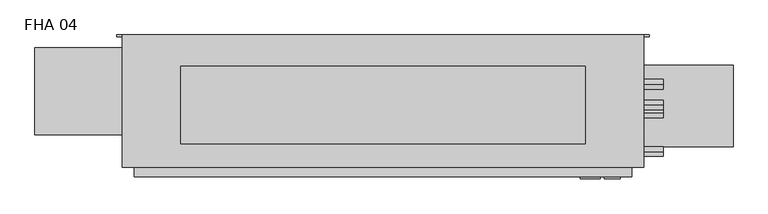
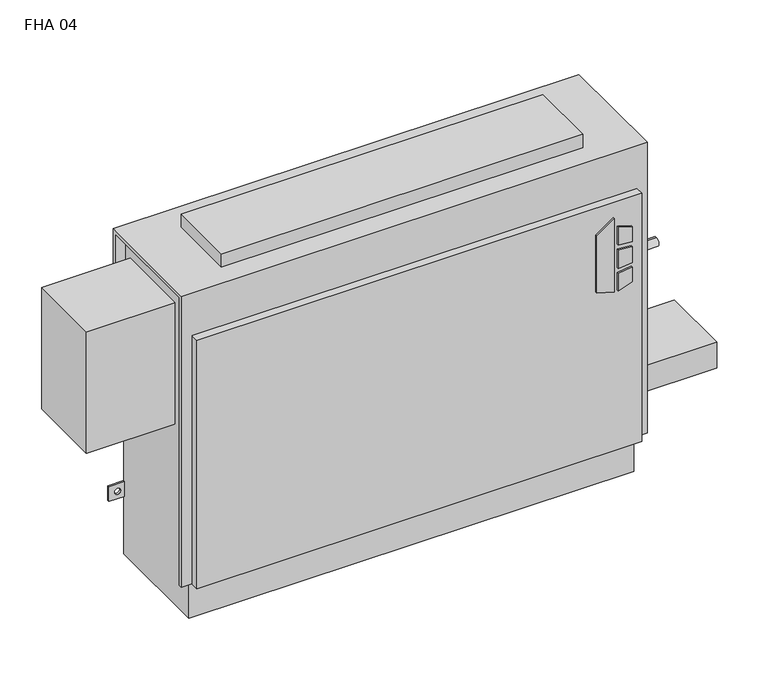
"""IFC4 building model written with IfcOpenShell, lengths in millimetres: proxy geometry, Vertical_Fan_Coil_Unit_-_FHA_-_IEC_-_4-Pipe_TS-FR_RH_2022 : FHA 04."""

import ifcopenshell
import ifcopenshell.guid

model = None  # the IFC model being written
_history = None  # IfcOwnerHistory: only IFC2X3 demands one
_inside = {}  # id of a spatial element -> (the spatial element, [elements in it])
_under = {}  # id of a project, library or spatial element -> (it, [spatial elements below it])
_declared = {}  # id of a project -> (the project, [libraries it declares])
_typed = {}  # id of a type object -> (the type object, [elements of that type])
_made_of = {}  # id of a material, layer set ... -> (it, [elements and type objects made of it])


def new_model(schema):
    """Start an empty IFC model of exactly this schema.

    Asked for "IFC4X3", IfcOpenShell would pick the latest addendum, in which some entities
    have other attributes; the version numbers below select the first issue.
    IFC2X3 requires an IfcOwnerHistory on every rooted entity: one is made here for all.
    """
    global model, _history
    if schema == "IFC4X3":
        model = ifcopenshell.file(schema_version=(4, 3, 0, 0))
    else:
        model = ifcopenshell.file(schema=schema)
    _inside.clear()
    _under.clear()
    _declared.clear()
    _typed.clear()
    _made_of.clear()
    _history = None
    if model.schema == "IFC2X3":
        org = make("IfcOrganization", Name="unknown")
        user = make(
            "IfcPersonAndOrganization",
            ThePerson=make("IfcPerson", FamilyName="unknown"),
            TheOrganization=org,
        )
        app = make(
            "IfcApplication",
            ApplicationDeveloper=org,
            Version="unknown",
            ApplicationFullName="unknown",
            ApplicationIdentifier="unknown",
        )
        _history = make(
            "IfcOwnerHistory",
            OwningUser=user,
            OwningApplication=app,
            ChangeAction="ADDED",
            CreationDate=0,
        )
    return model


def make(cls, **values):
    """One entity of the class cls with the attributes given. An attribute that is None is left unset."""
    return model.create_entity(
        cls, **{name: value for name, value in values.items() if value is not None}
    )


def rooted(cls, **values):
    """An entity with a GlobalId (a new one), such as an element, a storey or a relation."""
    return make(cls, GlobalId=ifcopenshell.guid.new(), OwnerHistory=_history, **values)


def si_unit(unit_type, name, prefix=None):
    """IfcSIUnit, for example si_unit("LENGTHUNIT", "METRE", prefix="MILLI")."""
    return make("IfcSIUnit", UnitType=unit_type, Prefix=prefix, Name=name)


def assignment(units):
    """IfcUnitAssignment: the units of a project."""
    return None if units is None else make("IfcUnitAssignment", Units=units)


def point(xyz):
    """IfcCartesianPoint."""
    return None if xyz is None else make("IfcCartesianPoint", Coordinates=xyz)


def direction(xyz):
    """IfcDirection."""
    return None if xyz is None else make("IfcDirection", DirectionRatios=xyz)


def frame(location, z_axis=None, x_axis=None):
    """IfcAxis2Placement3D, a coordinate frame: its origin and axes. An axis left out is left unset."""
    return make(
        "IfcAxis2Placement3D",
        Location=point(location),
        Axis=direction(z_axis),
        RefDirection=direction(x_axis),
    )


def frame_2d(location, x_axis=None):
    """IfcAxis2Placement2D, a coordinate frame in the plane: its origin and x axis."""
    return make(
        "IfcAxis2Placement2D", Location=point(location), RefDirection=direction(x_axis)
    )


def origin():
    """The frame at (0, 0, 0) with its axes left unset."""
    return frame((0.0, 0.0, 0.0))


def place(relative_to, where):
    """IfcLocalPlacement: puts the frame where relative to a parent placement (None: the world)."""
    return make(
        "IfcLocalPlacement", PlacementRelTo=relative_to, RelativePlacement=where
    )


def context(
    kind, dimensions, precision=None, world=None, true_north=None, identifier=None
):
    """IfcGeometricRepresentationContext, for example the 3D "Model" context."""
    return make(
        "IfcGeometricRepresentationContext",
        ContextIdentifier=identifier,
        ContextType=kind,
        CoordinateSpaceDimension=dimensions,
        Precision=precision,
        WorldCoordinateSystem=world,
        TrueNorth=true_north,
    )


def project(units=None, contexts=None):
    """IfcProject with its units and contexts."""
    return rooted(
        "IfcProject",
        Name="project",
        RepresentationContexts=contexts,
        UnitsInContext=assignment(units),
    )


def spatial(cls, under=None, at=None, **own):
    """A site, building, storey or space (cls), placed at a placement, below another one or the project."""
    s = rooted(cls, ObjectPlacement=at, **own)
    if under is not None:
        _under.setdefault(under.id(), (under, []))[1].append(s)
    return s


def polyline(points):
    """IfcPolyline through the points."""
    return make("IfcPolyline", Points=[point(p) for p in points])


def circle_curve(where, radius):
    """IfcCircle in the frame where."""
    return make("IfcCircle", Position=where, Radius=radius)


def trimmed(basis, trim1, trim2, sense, master):
    """IfcTrimmedCurve: the piece of a basis curve between two trims."""
    return make(
        "IfcTrimmedCurve",
        BasisCurve=basis,
        Trim1=trim1,
        Trim2=trim2,
        SenseAgreement=sense,
        MasterRepresentation=master,
    )


def segment(curve, same_sense, transition):
    """IfcCompositeCurveSegment."""
    return make(
        "IfcCompositeCurveSegment",
        Transition=transition,
        SameSense=same_sense,
        ParentCurve=curve,
    )


def composite_curve(segments, self_intersect=None):
    """IfcCompositeCurve: segments joined end to end."""
    return make("IfcCompositeCurve", Segments=segments, SelfIntersect=self_intersect)


def outline(outer, holes=None, kind="AREA"):
    """IfcArbitraryClosedProfileDef: a profile drawn as a closed curve; with holes, ...WithVoids."""
    if holes is None:
        return make("IfcArbitraryClosedProfileDef", ProfileType=kind, OuterCurve=outer)
    return make(
        "IfcArbitraryProfileDefWithVoids",
        ProfileType=kind,
        OuterCurve=outer,
        InnerCurves=holes,
    )


def extrude(swept, where, along, depth):
    """IfcExtrudedAreaSolid: the profile swept, set in the frame where, extruded along a direction by depth."""
    return make(
        "IfcExtrudedAreaSolid",
        SweptArea=swept,
        Position=where,
        ExtrudedDirection=direction(along),
        Depth=depth,
    )


def shape(context_of_items, identifier, shape_type, items):
    """IfcShapeRepresentation: the items that make up one representation, for example the "Body"."""
    return make(
        "IfcShapeRepresentation",
        ContextOfItems=context_of_items,
        RepresentationIdentifier=identifier,
        RepresentationType=shape_type,
        Items=items,
    )


def source(mapping_origin, context_of_items, identifier, shape_type, items):
    """IfcRepresentationMap: a shape defined once, which mapped items show again and again."""
    return make(
        "IfcRepresentationMap",
        MappingOrigin=mapping_origin,
        MappedRepresentation=shape(context_of_items, identifier, shape_type, items),
    )


def transform(
    local_origin,
    x_axis=None,
    y_axis=None,
    z_axis=None,
    scale=None,
    scale2=None,
    scale3=None,
    uniform=True,
):
    """IfcCartesianTransformationOperator3D, or its non-uniform kind. x_axis, y_axis, z_axis: its Axis1, 2, 3."""
    if uniform:
        return make(
            "IfcCartesianTransformationOperator3D",
            Axis1=direction(x_axis),
            Axis2=direction(y_axis),
            LocalOrigin=point(local_origin),
            Scale=scale,
            Axis3=direction(z_axis),
        )
    return make(
        "IfcCartesianTransformationOperator3DnonUniform",
        Axis1=direction(x_axis),
        Axis2=direction(y_axis),
        LocalOrigin=point(local_origin),
        Scale=scale,
        Axis3=direction(z_axis),
        Scale2=scale2,
        Scale3=scale3,
    )


def mapped(mapping_source, mapping_target):
    """IfcMappedItem: shows the shape of a source again, moved by a transform."""
    return make(
        "IfcMappedItem", MappingSource=mapping_source, MappingTarget=mapping_target
    )


def made_of(thing, what):
    """Note that an element or type object is made of a material, layer set ...; save() writes the relation."""
    if what is not None:
        _made_of.setdefault(what.id(), (what, []))[1].append(thing)
    return thing


def element(
    cls,
    number,
    at=None,
    inside=None,
    cuts=None,
    type_object=None,
    material=None,
    context=None,
    identifier="Body",
    shape_type=None,
    held_by="IfcProductDefinitionShape",
    body=None,
    shapes=None,
    **own,
):
    """One element of the class cls, such as IfcWall. Its Tag is "e" and its number.

    at: its placement. inside: the storey or other place that contains it. cuts: it is an
    opening in that element (IfcRelVoidsElement). A single representation is given by context,
    identifier, shape_type and body (its items); several are given by shapes. held_by: the class
    of the entity that holds the representations. save() writes the other relations.
    """
    e = rooted(cls, Tag="e%d" % number, ObjectPlacement=at, **own)
    if body is not None:
        shapes = [shape(context, identifier, shape_type, body)]
    if shapes is not None:
        e.Representation = make(held_by, Representations=shapes)
    if inside is not None:
        _inside.setdefault(inside.id(), (inside, []))[1].append(e)
    if cuts is not None:
        rooted(
            "IfcRelVoidsElement", RelatingBuildingElement=cuts, RelatedOpeningElement=e
        )
    if type_object is not None:
        _typed.setdefault(type_object.id(), (type_object, []))[1].append(e)
    return made_of(e, material)


def aggregate(whole, parts):
    """IfcRelAggregates: a whole, such as a stair, and the parts it consists of."""
    return rooted("IfcRelAggregates", RelatingObject=whole, RelatedObjects=parts)


def save(model, path):
    """Write the relations noted so far, then the file.

    IfcRelAggregates (storeys below a building ...), IfcRelContainedInSpatialStructure (elements
    in a storey), IfcRelDefinesByType, IfcRelAssociatesMaterial and IfcRelDeclares: one each for
    every whole, place, type object, material and project.
    """
    for whole, parts in _under.values():
        aggregate(whole, parts)
    for where, things in _inside.values():
        rooted(
            "IfcRelContainedInSpatialStructure",
            RelatedElements=things,
            RelatingStructure=where,
        )
    for kind, things in _typed.values():
        rooted("IfcRelDefinesByType", RelatedObjects=things, RelatingType=kind)
    for what, things in _made_of.values():
        rooted("IfcRelAssociatesMaterial", RelatedObjects=things, RelatingMaterial=what)
    for by, libraries in _declared.values():
        rooted("IfcRelDeclares", RelatingContext=by, RelatedDefinitions=libraries)
    model.write(path)


def plane_surface(at):
    """IfcPlane: the flat surface through the origin of the frame at, square to its z axis."""
    return make("IfcPlane", Position=at)


def revolved_surface(curve, axis_point, axis_direction):
    """IfcSurfaceOfRevolution: the curve turned about the line through axis_point along axis_direction."""
    return make(
        "IfcSurfaceOfRevolution",
        SweptCurve=make("IfcArbitraryOpenProfileDef", ProfileType="CURVE", Curve=curve),
        AxisPosition=make("IfcAxis1Placement", Location=point(axis_point), Axis=direction(axis_direction)),
    )


def advanced_brep(points, edges, surfaces, faces):
    """IfcAdvancedBrep: a solid bounded by faces that lie on surfaces and meet in shared edges.

    An edge is (start, end): straight between two places in points (the first is 0);
    or (start, end, curve); or (start, end, curve, False) where it runs against its curve.
    A face is (place in surfaces, loops), or (place, loops, False) where it looks against
    its surface's normal. A loop lists edges by number (the first is 1), with a minus sign
    where the edge is run from its end to its start. The first loop is the outer one.
    """
    corners = [point(p) for p in points]
    vertices = [make("IfcVertexPoint", VertexGeometry=c) for c in corners]
    made = []
    for start, end, *more in edges:
        made.append(
            make(
                "IfcEdgeCurve",
                EdgeStart=vertices[start],
                EdgeEnd=vertices[end],
                EdgeGeometry=more[0] if more else make("IfcPolyline", Points=[corners[start], corners[end]]),
                SameSense=more[1] if len(more) > 1 else True,
            )
        )
    hull = []
    for where, loops, *sense in faces:
        bounds = []
        for j, loop in enumerate(loops):
            ring = [make("IfcOrientedEdge", EdgeElement=made[abs(k) - 1], Orientation=k > 0) for k in loop]
            bounds.append(
                make(
                    "IfcFaceOuterBound" if j == 0 else "IfcFaceBound",
                    Bound=make("IfcEdgeLoop", EdgeList=ring),
                    Orientation=True,
                )
            )
        hull.append(make("IfcAdvancedFace", Bounds=bounds, FaceSurface=surfaces[where], SameSense=sense[0] if sense else True))
    return make("IfcAdvancedBrep", Outer=make("IfcClosedShell", CfsFaces=hull))


def fha_04_7ede1e6b(model_context):
    return source(origin(), model_context, "Body", "SolidModel", [
        extrude(outline(polyline([(391.6086829, 474.7368862), (381.6606126, 506.9102728), (523.831537, 506.9102728), (500.8095309, 474.7368862), (391.6086829, 474.7368862)])), frame((0.0, 9.525, 0.0), z_axis=(0.0, 1.0, 0.0), x_axis=(0.0, 0.0, 1.0)), (0.0, 0.0, 1.0), 3.175),
        extrude(outline(polyline([(470.6079683, 513.6686058), (467.4055757, 539.75), (496.6344168, 539.75), (504.6988318, 513.6686058), (470.6079683, 513.6686058)])), frame((0.0, 9.525, 0.0), z_axis=(0.0, 1.0, 0.0), x_axis=(0.0, 0.0, 1.0)), (0.0, 0.0, 1.0), 3.175),
        extrude(outline(polyline([(418.7444414, 539.75), (415.0789404, 513.6686058), (381.6606126, 513.6686058), (390.2948498, 539.75), (418.7444414, 539.75)])), frame((0.0, 9.525, 0.0), z_axis=(0.0, 1.0, 0.0), x_axis=(0.0, 0.0, 1.0)), (0.0, 0.0, 1.0), 3.175),
        extrude(outline(polyline([(458.0596028, 539.75), (460.3414292, 513.6686058), (424.4038806, 513.6686058), (427.1451456, 539.75), (458.0596028, 539.75)])), frame((0.0, 9.525, 0.0), z_axis=(0.0, 1.0, 0.0), x_axis=(0.0, 0.0, 1.0)), (0.0, 0.0, 1.0), 3.175),
        extrude(outline(composite_curve([segment(trimmed(circle_curve(frame_2d((622.3, 128.5875)), 9.525), [point((612.775, 128.5875))], [point((631.825, 128.5875))], False, "CARTESIAN"), True, "CONTINUOUS"), segment(trimmed(circle_curve(frame_2d((622.3, 128.5875)), 9.525), [point((631.825, 128.5875))], [point((612.775, 128.5875))], False, "CARTESIAN"), True, "CONTINUOUS")], self_intersect=False)), frame((0.0, 0.0, 101.6), z_axis=(0.0, 0.0, 1.0), x_axis=(1.0, 0.0, 0.0)), (0.0, 0.0, 1.0), 25.4),
        extrude(outline(polyline([(723.9, 195.2625), (723.9, 61.9125), (558.8, 61.9125), (558.8, 195.2625), (723.9, 195.2625)])), frame((0.0, 0.0, 127.0), z_axis=(0.0, 0.0, 1.0), x_axis=(1.0, 0.0, 0.0)), (0.0, 0.0, 1.0), 50.8),
        extrude(outline(polyline([(482.6, 193.675), (482.6, 66.675), (-177.8, 66.675), (-177.8, 193.675), (482.6, 193.675)])), frame((0.0, 0.0, 635.0), z_axis=(0.0, 0.0, 1.0), x_axis=(1.0, 0.0, 0.0)), (0.0, 0.0, 1.0), 25.4),
        extrude(outline(composite_curve([segment(trimmed(circle_curve(frame_2d((117.475, 472.44)), 7.9375), [point((117.475, 464.5025))], [point((117.475, 480.3775))], False, "CARTESIAN"), True, "CONTINUOUS"), segment(trimmed(circle_curve(frame_2d((117.475, 472.44)), 7.9375), [point((117.475, 480.3775))], [point((117.475, 464.5025))], False, "CARTESIAN"), True, "CONTINUOUS")], self_intersect=False)), frame((558.8, 0.0, 0.0), z_axis=(1.0, 0.0, 0.0), x_axis=(0.0, 1.0, 0.0)), (0.0, 0.0, 1.0), 50.8),
        extrude(outline(composite_curve([segment(trimmed(circle_curve(frame_2d((164.0586, 445.897)), 7.9375), [point((164.0586, 437.9595))], [point((164.0586, 453.8345))], False, "CARTESIAN"), True, "CONTINUOUS"), segment(trimmed(circle_curve(frame_2d((164.0586, 445.897)), 7.9375), [point((164.0586, 453.8345))], [point((164.0586, 437.9595))], False, "CARTESIAN"), True, "CONTINUOUS")], self_intersect=False)), frame((558.8, 0.0, 0.0), z_axis=(1.0, 0.0, 0.0), x_axis=(0.0, 1.0, 0.0)), (0.0, 0.0, 1.0), 50.8),
        extrude(outline(composite_curve([segment(trimmed(circle_curve(frame_2d((130.175, 554.99)), 7.9502), [point((130.175, 547.0398))], [point((130.175, 562.9402))], False, "CARTESIAN"), True, "CONTINUOUS"), segment(trimmed(circle_curve(frame_2d((130.175, 554.99)), 7.9502), [point((130.175, 562.9402))], [point((130.175, 547.0398))], False, "CARTESIAN"), True, "CONTINUOUS")], self_intersect=False)), frame((558.8, 0.0, 0.0), z_axis=(1.0, 0.0, 0.0), x_axis=(0.0, 1.0, 0.0)), (0.0, 0.0, 1.0), 50.8),
        extrude(outline(composite_curve([segment(trimmed(circle_curve(frame_2d((53.975, 416.56)), 7.9502), [point((53.975, 408.6098))], [point((53.975, 424.5102))], False, "CARTESIAN"), True, "CONTINUOUS"), segment(trimmed(circle_curve(frame_2d((53.975, 416.56)), 7.9502), [point((53.975, 424.5102))], [point((53.975, 408.6098))], False, "CARTESIAN"), True, "CONTINUOUS")], self_intersect=False)), frame((558.8, 0.0, 0.0), z_axis=(1.0, 0.0, 0.0), x_axis=(0.0, 1.0, 0.0)), (0.0, 0.0, 1.0), 50.8),
        extrude(outline(polyline([(-415.925, 223.266), (-254.0, 223.266), (-254.0, 81.534), (-415.925, 81.534), (-415.925, 223.266)])), frame((0.0, 0.0, 349.25), z_axis=(0.0, 0.0, 1.0), x_axis=(1.0, 0.0, 0.0)), (0.0, 0.0, 1.0), 234.95),
        advanced_brep(
        [(577.85, 244.475, 635.0), (-273.05, 244.475, 635.0), (-273.05, 28.575, 635.0), (577.85, 28.575, 635.0), (-254.0, 244.475, 0.0), (558.8, 244.475, 0.0), (558.8, 38.1, 0.0), (-254.0, 38.1, 0.0), (577.85, 244.475, 558.8), (558.8, 244.475, 558.8), (558.8, 244.475, 414.3375), (587.375, 244.475, 414.3375), (587.375, 244.475, 385.7625), (558.8, 244.475, 385.7625), (558.8, 244.475, 287.3375), (587.375, 244.475, 287.3375), (587.375, 244.475, 258.7625), (558.8, 244.475, 258.7625), (558.8, 244.475, 141.2875), (587.375, 244.475, 141.2875), (587.375, 244.475, 112.7125), (558.8, 244.475, 112.7125), (-254.0, 244.475, 112.7125), (-282.575, 244.475, 112.7125), (-282.575, 244.475, 141.2875), (-254.0, 244.475, 141.2875), (-254.0, 244.475, 258.7625), (-282.575, 244.475, 258.7625), (-282.575, 244.475, 287.3375), (-254.0, 244.475, 287.3375), (-254.0, 244.475, 385.7625), (-282.575, 244.475, 385.7625), (-282.575, 244.475, 414.3375), (-254.0, 244.475, 414.3375), (-254.0, 244.475, 558.8), (-273.05, 244.475, 558.8), (577.0626, 244.475, 127.0), (565.9374, 244.475, 127.0), (-261.1374, 244.475, 127.0), (-272.2626, 244.475, 127.0), (577.0626, 244.475, 273.05), (565.9374, 244.475, 273.05), (-261.1374, 244.475, 273.05), (-272.2626, 244.475, 273.05), (577.0626, 244.475, 400.05), (565.9374, 244.475, 400.05), (-261.1374, 244.475, 400.05), (-272.2626, 244.475, 400.05), (-273.05, 238.125, 558.8), (-273.05, 238.125, 628.65), (-273.05, 34.925, 628.65), (-273.05, 34.925, 73.025), (-273.05, 28.575, 73.025), (558.8, 12.7, 552.45), (-254.0, 12.7, 552.45), (-254.0, 12.7, 73.025), (558.8, 12.7, 73.025), (577.85, 28.575, 73.025), (577.85, 34.925, 73.025), (577.85, 34.925, 628.65), (577.85, 238.125, 628.65), (577.85, 238.125, 558.8), (-254.0, 28.575, 73.025), (-254.0, 28.575, 552.45), (558.8, 28.575, 552.45), (558.8, 28.575, 73.025), (-254.0, 34.925, 73.025), (-254.0, 38.1, 73.025), (558.8, 38.1, 73.025), (558.8, 34.925, 73.025), (558.8, 241.3, 112.7125), (558.8, 241.3, 141.2875), (558.8, 241.3, 258.7625), (558.8, 241.3, 287.3375), (558.8, 241.3, 385.7625), (558.8, 241.3, 414.3375), (558.8, 238.125, 558.8), (558.8, 238.125, 628.65), (558.8, 34.925, 628.65), (-254.0, 34.925, 628.65), (-254.0, 238.125, 628.65), (-254.0, 238.125, 558.8), (-254.0, 241.3, 414.3375), (-254.0, 241.3, 385.7625), (-254.0, 241.3, 287.3375), (-254.0, 241.3, 258.7625), (-254.0, 241.3, 141.2875), (-254.0, 241.3, 112.7125), (587.375, 241.3, 112.7125), (587.375, 241.3, 141.2875), (565.9374, 241.3, 127.0), (577.0626, 241.3, 127.0), (587.375, 241.3, 258.7625), (587.375, 241.3, 287.3375), (565.9374, 241.3, 273.05), (577.0626, 241.3, 273.05), (587.375, 241.3, 385.7625), (587.375, 241.3, 414.3375), (565.9374, 241.3, 400.05), (577.0626, 241.3, 400.05), (-282.575, 241.3, 141.2875), (-282.575, 241.3, 112.7125), (-272.2626, 241.3, 127.0), (-261.1374, 241.3, 127.0), (-282.575, 241.3, 287.3375), (-282.575, 241.3, 258.7625), (-272.2626, 241.3, 273.05), (-261.1374, 241.3, 273.05), (-282.575, 241.3, 414.3375), (-282.575, 241.3, 385.7625), (-272.2626, 241.3, 400.05), (-261.1374, 241.3, 400.05)],
        [
            (0, 1),
            (1, 2),
            (2, 3),
            (3, 0),
            (4, 5),
            (5, 6),
            (6, 7),
            (7, 4),
            (0, 8),
            (8, 9),
            (9, 10),
            (10, 11),
            (11, 12),
            (12, 13),
            (13, 14),
            (14, 15),
            (15, 16),
            (16, 17),
            (17, 18),
            (18, 19),
            (19, 20),
            (20, 21),
            (21, 5),
            (4, 22),
            (22, 23),
            (23, 24),
            (24, 25),
            (25, 26),
            (26, 27),
            (27, 28),
            (28, 29),
            (29, 30),
            (30, 31),
            (31, 32),
            (32, 33),
            (33, 34),
            (34, 35),
            (35, 1),
            (36, 37, circle_curve(frame((571.5, 244.475, 127.0), z_axis=(0.0, -1.0, 0.0), x_axis=(-1.0, 0.0, 0.0)), 5.5626)),
            (37, 36, circle_curve(frame((571.5, 244.475, 127.0), z_axis=(0.0, -1.0, 0.0), x_axis=(-1.0, 0.0, 0.0)), 5.5626)),
            (38, 39, circle_curve(frame((-266.7, 244.475, 127.0), z_axis=(0.0, -1.0, 0.0), x_axis=(-1.0, 0.0, 0.0)), 5.5626)),
            (39, 38, circle_curve(frame((-266.7, 244.475, 127.0), z_axis=(0.0, -1.0, 0.0), x_axis=(-1.0, 0.0, 0.0)), 5.5626)),
            (40, 41, circle_curve(frame((571.5, 244.475, 273.05), z_axis=(0.0, -1.0, 0.0), x_axis=(-1.0, 0.0, 0.0)), 5.5626)),
            (41, 40, circle_curve(frame((571.5, 244.475, 273.05), z_axis=(0.0, -1.0, 0.0), x_axis=(-1.0, 0.0, 0.0)), 5.5626)),
            (42, 43, circle_curve(frame((-266.7, 244.475, 273.05), z_axis=(0.0, -1.0, 0.0), x_axis=(-1.0, 0.0, 0.0)), 5.5626)),
            (43, 42, circle_curve(frame((-266.7, 244.475, 273.05), z_axis=(0.0, -1.0, 0.0), x_axis=(-1.0, 0.0, 0.0)), 5.5626)),
            (44, 45, circle_curve(frame((571.5, 244.475, 400.05), z_axis=(0.0, -1.0, 0.0), x_axis=(-1.0, 0.0, 0.0)), 5.5626)),
            (45, 44, circle_curve(frame((571.5, 244.475, 400.05), z_axis=(0.0, -1.0, 0.0), x_axis=(-1.0, 0.0, 0.0)), 5.5626)),
            (46, 47, circle_curve(frame((-266.7, 244.475, 400.05), z_axis=(0.0, -1.0, 0.0), x_axis=(-1.0, 0.0, 0.0)), 5.5626)),
            (47, 46, circle_curve(frame((-266.7, 244.475, 400.05), z_axis=(0.0, -1.0, 0.0), x_axis=(-1.0, 0.0, 0.0)), 5.5626)),
            (35, 48),
            (48, 49),
            (49, 50),
            (50, 51),
            (51, 52),
            (52, 2),
            (53, 54),
            (54, 55),
            (55, 56),
            (56, 53),
            (3, 57),
            (57, 58),
            (58, 59),
            (59, 60),
            (60, 61),
            (61, 8),
            (52, 62),
            (62, 63),
            (63, 64),
            (64, 65),
            (65, 57),
            (53, 64),
            (63, 54),
            (55, 62),
            (51, 66),
            (66, 67),
            (67, 68),
            (68, 69),
            (69, 58),
            (65, 56),
            (6, 68),
            (67, 7),
            (21, 70),
            (70, 71),
            (71, 18),
            (17, 72),
            (72, 73),
            (73, 14),
            (13, 74),
            (74, 75),
            (75, 10),
            (9, 76),
            (76, 77),
            (77, 78),
            (78, 69),
            (66, 79),
            (79, 80),
            (80, 81),
            (81, 34),
            (33, 82),
            (82, 83),
            (83, 30),
            (29, 84),
            (84, 85),
            (85, 26),
            (25, 86),
            (86, 87),
            (87, 22),
            (76, 61),
            (60, 77),
            (78, 59),
            (50, 79),
            (81, 48),
            (80, 49),
            (70, 88),
            (88, 89),
            (89, 71),
            (90, 91, circle_curve(frame((571.5, 241.3, 127.0), z_axis=(0.0, 1.0, 0.0), x_axis=(-1.0, 0.0, 0.0)), 5.5626)),
            (91, 90, circle_curve(frame((571.5, 241.3, 127.0), z_axis=(0.0, 1.0, 0.0), x_axis=(-1.0, 0.0, 0.0)), 5.5626)),
            (92, 93),
            (93, 73),
            (72, 92),
            (94, 95, circle_curve(frame((571.5, 241.3, 273.05), z_axis=(0.0, 1.0, 0.0), x_axis=(-1.0, 0.0, 0.0)), 5.5626)),
            (95, 94, circle_curve(frame((571.5, 241.3, 273.05), z_axis=(0.0, 1.0, 0.0), x_axis=(-1.0, 0.0, 0.0)), 5.5626)),
            (96, 97),
            (97, 75),
            (74, 96),
            (98, 99, circle_curve(frame((571.5, 241.3, 400.05), z_axis=(0.0, 1.0, 0.0), x_axis=(-1.0, 0.0, 0.0)), 5.5626)),
            (99, 98, circle_curve(frame((571.5, 241.3, 400.05), z_axis=(0.0, 1.0, 0.0), x_axis=(-1.0, 0.0, 0.0)), 5.5626)),
            (100, 101),
            (101, 87),
            (86, 100),
            (102, 103, circle_curve(frame((-266.7, 241.3, 127.0), z_axis=(0.0, 1.0, 0.0), x_axis=(-1.0, 0.0, 0.0)), 5.5626)),
            (103, 102, circle_curve(frame((-266.7, 241.3, 127.0), z_axis=(0.0, 1.0, 0.0), x_axis=(-1.0, 0.0, 0.0)), 5.5626)),
            (84, 104),
            (104, 105),
            (105, 85),
            (106, 107, circle_curve(frame((-266.7, 241.3, 273.05), z_axis=(0.0, 1.0, 0.0), x_axis=(-1.0, 0.0, 0.0)), 5.5626)),
            (107, 106, circle_curve(frame((-266.7, 241.3, 273.05), z_axis=(0.0, 1.0, 0.0), x_axis=(-1.0, 0.0, 0.0)), 5.5626)),
            (108, 109),
            (109, 83),
            (82, 108),
            (110, 111, circle_curve(frame((-266.7, 241.3, 400.05), z_axis=(0.0, 1.0, 0.0), x_axis=(-1.0, 0.0, 0.0)), 5.5626)),
            (111, 110, circle_curve(frame((-266.7, 241.3, 400.05), z_axis=(0.0, 1.0, 0.0), x_axis=(-1.0, 0.0, 0.0)), 5.5626)),
            (89, 19),
            (88, 20),
            (16, 92),
            (93, 15),
            (12, 96),
            (97, 11),
            (24, 100),
            (101, 23),
            (105, 27),
            (104, 28),
            (32, 108),
            (109, 31),
            (90, 37),
            (36, 91),
            (102, 39),
            (38, 103),
            (94, 41),
            (40, 95),
            (106, 43),
            (42, 107),
            (98, 45),
            (44, 99),
            (110, 47),
            (46, 111),
        ],
        [
            plane_surface(frame((-273.05, 244.475, 635.0), z_axis=(0.0, 0.0, 1.0), x_axis=(-1.0, 0.0, 0.0))),
            plane_surface(frame((-273.05, 244.475, 0.0), z_axis=(0.0, 0.0, -1.0), x_axis=(1.0, 0.0, 0.0))),
            plane_surface(frame((577.85, 244.475, 635.0), z_axis=(0.0, 1.0, 0.0), x_axis=(0.0, 0.0, -1.0))),
            plane_surface(frame((-273.05, 244.475, 635.0), z_axis=(-1.0, 0.0, 0.0), x_axis=(0.0, 0.0, -1.0))),
            plane_surface(frame((-273.05, 12.7, 635.0), z_axis=(0.0, -1.0, 0.0), x_axis=(0.0, 0.0, -1.0))),
            plane_surface(frame((577.85, 12.7, 635.0), z_axis=(1.0, 0.0, 0.0), x_axis=(0.0, 0.0, -1.0))),
            plane_surface(frame((-400.05, 28.575, 635.0), z_axis=(0.0, -1.0, 0.0), x_axis=(1.0, 0.0, 0.0))),
            plane_surface(frame((-400.05, 28.575, 552.45), z_axis=(0.0, 0.0, 1.0), x_axis=(1.0, 0.0, 0.0))),
            plane_surface(frame((-273.05, 12.7, 73.025), z_axis=(0.0, 0.0, -1.0), x_axis=(1.0, 0.0, 0.0))),
            plane_surface(frame((-273.05, 38.1, 73.025), z_axis=(0.0, -1.0, 0.0), x_axis=(1.0, 0.0, 0.0))),
            plane_surface(frame((558.8, 28.575, 73.025), z_axis=(1.0, 0.0, 0.0), x_axis=(0.0, -1.0, 0.0))),
            plane_surface(frame((-254.0, 28.575, 552.45), z_axis=(-1.0, 0.0, 0.0), x_axis=(0.0, -1.0, 0.0))),
            plane_surface(frame((558.8, 244.475, 0.0), z_axis=(1.0, 0.0, 0.0), x_axis=(0.0, -1.0, 0.0))),
            plane_surface(frame((-254.0, 244.475, 73.025), z_axis=(-1.0, 0.0, 0.0), x_axis=(0.0, -1.0, 0.0))),
            plane_surface(frame((558.8, 238.125, 628.65), z_axis=(0.0, -1.0, 0.0), x_axis=(1.0, 0.0, 0.0))),
            plane_surface(frame((558.8, 238.125, 558.8), z_axis=(0.0, 0.0, -1.0), x_axis=(1.0, 0.0, 0.0))),
            plane_surface(frame((558.8, 34.925, 73.025), z_axis=(0.0, 1.0, 0.0), x_axis=(1.0, 0.0, 0.0))),
            plane_surface(frame((558.8, 34.925, 628.65), z_axis=(0.0, 0.0, -1.0), x_axis=(1.0, 0.0, 0.0))),
            plane_surface(frame((-254.0, 34.925, 628.65), z_axis=(0.0, 1.0, 0.0), x_axis=(-1.0, 0.0, 0.0))),
            plane_surface(frame((-254.0, 244.475, 558.8), z_axis=(0.0, 0.0, -1.0), x_axis=(-1.0, 0.0, 0.0))),
            plane_surface(frame((-254.0, 238.125, 558.8), z_axis=(0.0, -1.0, 0.0), x_axis=(-1.0, 0.0, 0.0))),
            plane_surface(frame((-254.0, 238.125, 628.65), z_axis=(0.0, 0.0, -1.0), x_axis=(-1.0, 0.0, 0.0))),
            plane_surface(frame((587.375, 241.3, 141.2875), z_axis=(0.0, -1.0, 0.0), x_axis=(-1.0, 0.0, 0.0))),
            plane_surface(frame((558.8, 244.475, 141.2875), z_axis=(0.0, 0.0, 1.0), x_axis=(0.0, -1.0, 0.0))),
            plane_surface(frame((587.375, 244.475, 141.2875), z_axis=(1.0, 0.0, 0.0), x_axis=(0.0, -1.0, 0.0))),
            plane_surface(frame((587.375, 244.475, 112.7125), z_axis=(0.0, 0.0, -1.0), x_axis=(0.0, -1.0, 0.0))),
            plane_surface(frame((587.375, 244.475, 258.7625), z_axis=(0.0, 0.0, -1.0), x_axis=(0.0, -1.0, 0.0))),
            plane_surface(frame((558.8, 244.475, 287.3375), z_axis=(0.0, 0.0, 1.0), x_axis=(0.0, -1.0, 0.0))),
            plane_surface(frame((587.375, 244.475, 287.3375), z_axis=(1.0, 0.0, 0.0), x_axis=(0.0, -1.0, 0.0))),
            plane_surface(frame((587.375, 244.475, 385.7625), z_axis=(0.0, 0.0, -1.0), x_axis=(0.0, -1.0, 0.0))),
            plane_surface(frame((558.8, 244.475, 414.3375), z_axis=(0.0, 0.0, 1.0), x_axis=(0.0, -1.0, 0.0))),
            plane_surface(frame((587.375, 244.475, 414.3375), z_axis=(1.0, 0.0, 0.0), x_axis=(0.0, -1.0, 0.0))),
            plane_surface(frame((-282.575, 244.475, 141.2875), z_axis=(0.0, 0.0, 1.0), x_axis=(0.0, -1.0, 0.0))),
            plane_surface(frame((-254.0, 244.475, 112.7125), z_axis=(0.0, 0.0, -1.0), x_axis=(0.0, -1.0, 0.0))),
            plane_surface(frame((-282.575, 244.475, 112.7125), z_axis=(-1.0, 0.0, 0.0), x_axis=(0.0, -1.0, 0.0))),
            plane_surface(frame((-254.0, 244.475, 258.7625), z_axis=(0.0, 0.0, -1.0), x_axis=(0.0, -1.0, 0.0))),
            plane_surface(frame((-282.575, 244.475, 258.7625), z_axis=(-1.0, 0.0, 0.0), x_axis=(0.0, -1.0, 0.0))),
            plane_surface(frame((-282.575, 244.475, 287.3375), z_axis=(0.0, 0.0, 1.0), x_axis=(0.0, -1.0, 0.0))),
            plane_surface(frame((-282.575, 244.475, 414.3375), z_axis=(0.0, 0.0, 1.0), x_axis=(0.0, -1.0, 0.0))),
            plane_surface(frame((-254.0, 244.475, 385.7625), z_axis=(0.0, 0.0, -1.0), x_axis=(0.0, -1.0, 0.0))),
            plane_surface(frame((-282.575, 244.475, 385.7625), z_axis=(-1.0, 0.0, 0.0), x_axis=(0.0, -1.0, 0.0))),
            revolved_surface(polyline([(565.9374, 241.3, 127.0), (565.9374, 244.475, 127.0)]), (571.5, 244.475, 127.0), (0.0, -1.0, 0.0)),
            revolved_surface(polyline([(-272.26259999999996, 241.3, 127.0), (-272.26259999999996, 244.475, 127.0)]), (-266.7, 244.475, 127.0), (0.0, -1.0, 0.0)),
            revolved_surface(polyline([(565.9374, 241.3, 273.05), (565.9374, 244.475, 273.05)]), (571.5, 244.475, 273.05), (0.0, -1.0, 0.0)),
            revolved_surface(polyline([(-272.26259999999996, 241.3, 273.05), (-272.26259999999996, 244.475, 273.05)]), (-266.7, 244.475, 273.05), (0.0, -1.0, 0.0)),
            revolved_surface(polyline([(565.9374, 241.3, 400.05), (565.9374, 244.475, 400.05)]), (571.5, 244.475, 400.05), (0.0, -1.0, 0.0)),
            revolved_surface(polyline([(-272.26259999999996, 241.3, 400.05), (-272.26259999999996, 244.475, 400.05)]), (-266.7, 244.475, 400.05), (0.0, -1.0, 0.0)),
        ],
        [
            (0, [[1, 2, 3, 4]]),
            (1, [[5, 6, 7, 8]]),
            (2, [[-1, 9, 10, 11, 12, 13, 14, 15, 16, 17, 18, 19, 20, 21, 22, 23, -5, 24, 25, 26, 27, 28, 29, 30, 31, 32, 33, 34, 35, 36, 37, 38], [39, 40], [41, 42], [43, 44], [45, 46], [47, 48], [49, 50]]),
            (3, [[-2, -38, 51, 52, 53, 54, 55, 56]]),
            (4, [[57, 58, 59, 60]]),
            (5, [[-4, 61, 62, 63, 64, 65, 66, -9]]),
            (6, [[-3, -56, 67, 68, 69, 70, 71, -61]]),
            (7, [[-57, 72, -69, 73]]),
            (8, [[-59, 74, -67, -55, 75, 76, 77, 78, 79, -62, -71, 80]]),
            (9, [[-7, 81, -77, 82]]),
            (10, [[-70, -72, -60, -80]]),
            (11, [[-68, -74, -58, -73]]),
            (12, [[-6, -23, 83, 84, 85, -19, 86, 87, 88, -15, 89, 90, 91, -11, 92, 93, 94, 95, -78, -81]]),
            (13, [[-8, -82, -76, 96, 97, 98, 99, -36, 100, 101, 102, -32, 103, 104, 105, -28, 106, 107, 108, -24]]),
            (14, [[-93, 109, -65, 110]]),
            (15, [[-92, -10, -66, -109]]),
            (16, [[-95, 111, -63, -79]]),
            (17, [[-94, -110, -64, -111]]),
            (18, [[-96, -75, -54, 112]]),
            (19, [[-99, 113, -51, -37]]),
            (20, [[-98, 114, -52, -113]]),
            (21, [[-97, -112, -53, -114]]),
            (22, [[115, 116, 117, -84], [118, 119]]),
            (22, [[120, 121, -87, 122], [123, 124]]),
            (22, [[125, 126, -90, 127], [128, 129]]),
            (22, [[130, 131, -107, 132], [133, 134]]),
            (22, [[135, 136, 137, -104], [138, 139]]),
            (22, [[140, 141, -101, 142], [143, 144]]),
            (23, [[-117, 145, -20, -85]]),
            (24, [[-116, 146, -21, -145]]),
            (25, [[-115, -83, -22, -146]]),
            (26, [[-122, -86, -18, 147]]),
            (27, [[-121, 148, -16, -88]]),
            (28, [[-120, -147, -17, -148]]),
            (29, [[-127, -89, -14, 149]]),
            (30, [[-126, 150, -12, -91]]),
            (31, [[-125, -149, -13, -150]]),
            (32, [[-132, -106, -27, 151]]),
            (33, [[-131, 152, -25, -108]]),
            (34, [[-130, -151, -26, -152]]),
            (35, [[-137, 153, -29, -105]]),
            (36, [[-136, 154, -30, -153]]),
            (37, [[-135, -103, -31, -154]]),
            (38, [[-142, -100, -35, 155]]),
            (39, [[-141, 156, -33, -102]]),
            (40, [[-140, -155, -34, -156]]),
            (41, [[157, -39, 158, -118]]),
            (41, [[-157, -119, -158, -40]]),
            (42, [[159, -41, 160, -133]]),
            (42, [[-159, -134, -160, -42]]),
            (43, [[161, -43, 162, -123]]),
            (43, [[-161, -124, -162, -44]]),
            (44, [[163, -45, 164, -138]]),
            (44, [[-163, -139, -164, -46]]),
            (45, [[165, -47, 166, -128]]),
            (45, [[-165, -129, -166, -48]]),
            (46, [[167, -49, 168, -143]]),
            (46, [[-167, -144, -168, -50]]),
        ],
    ),
    ])


if __name__ == "__main__":
    model = new_model("IFC4")
    model_context = context("Model", 3, world=origin())
    ifc_project = project(units=[si_unit("LENGTHUNIT", "METRE", prefix="MILLI")], contexts=[model_context])
    site = spatial("IfcSite", under=ifc_project)
    building = spatial("IfcBuilding", under=site)
    placement = place(None, origin())
    fha_04_shape = fha_04_7ede1e6b(model_context)
    element("IfcBuildingElementProxy", 1, Name="Vertical_Fan_Coil_Unit_-_FHA_-_IEC_-_4-Pipe_TS-FR_RH_2022 : FHA 04", ObjectType="Vertical_Fan_Coil_Unit_-_FHA_-_IEC_-_4-Pipe_TS-FR_RH_2022 : FHA 04", at=placement, inside=building, context=model_context, shape_type="MappedRepresentation", body=[
        mapped(fha_04_shape, transform((0.0, 0.0, 0.0), x_axis=(1.0, 0.0, 0.0), y_axis=(0.0, 1.0, 0.0), z_axis=(0.0, 0.0, 1.0))),
    ])
    save(model, "model.ifc")
